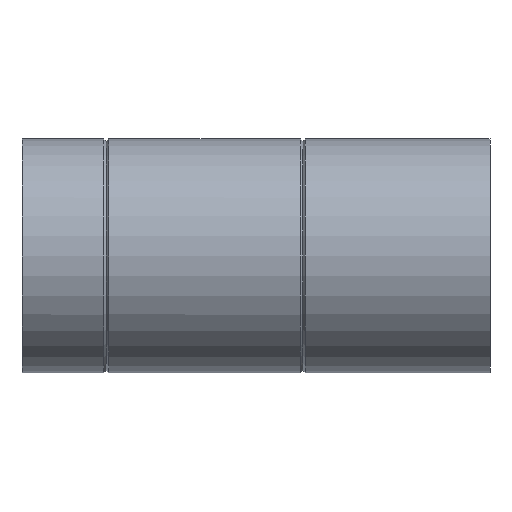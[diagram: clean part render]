
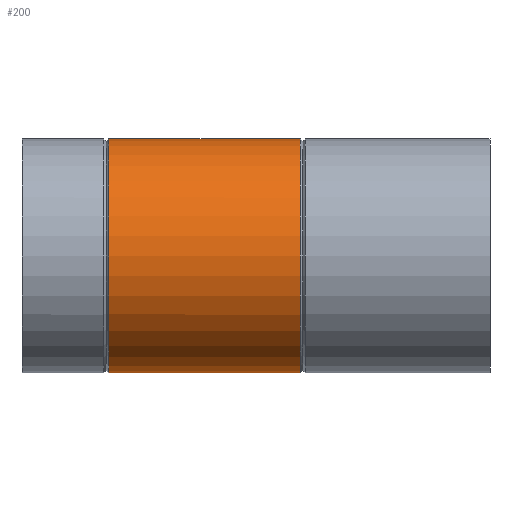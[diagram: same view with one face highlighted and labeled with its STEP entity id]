
A CAD part, left-side view. The second image highlights one B-rep face of the part: STEP entity #200.
In plain terms, the highlighted cylindrical face has radius 62.5 mm (diameter 125 mm), a full revolution.
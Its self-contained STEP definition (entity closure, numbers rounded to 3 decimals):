
#15=B_SPLINE_CURVE_WITH_KNOTS($,3,(#325,#326,#327,#328,#329,#330,#331,#332,
#333,#334,#335,#336,#337,#338,#339,#340,#341,#342,#343,#344,#345,#346,#347,
#348,#349,#350,#351,#352,#353,#354,#355,#356,#357,#358,#359,#360,#361,#362,
#363,#364,#365,#366,#367,#368,#369,#370,#371,#372,#373,#374,#375,#376,#377,
#378,#379,#380,#381,#382,#383,#384,#385,#386,#387,#388,#389,#390),
 .UNSPECIFIED.,.T.,.F.,(4,2,2,2,2,2,2,2,2,2,2,2,2,2,2,2,2,2,2,2,2,2,2,2,
2,2,2,2,2,2,2,2,4),(0.,0.736,1.472,2.209,
2.945,3.671,4.398,5.125,5.851,
6.578,7.304,8.031,8.757,9.494,
10.23,10.966,11.702,12.428,13.155,
13.881,14.607,15.333,16.059,16.785,
17.511,18.237,18.963,19.689,20.415,
21.142,21.868,22.594,23.321),
 .UNSPECIFIED.);
#17=CYLINDRICAL_SURFACE($,#222,62.5);
#26=FACE_BOUND($,#63,.T.);
#27=FACE_BOUND($,#64,.T.);
#48=FACE_OUTER_BOUND($,#62,.T.);
#62=EDGE_LOOP($,(#145));
#63=EDGE_LOOP($,(#146));
#64=EDGE_LOOP($,(#147));
#94=CIRCLE($,#221,62.5);
#95=CIRCLE($,#223,62.5);
#109=VERTEX_POINT($,#319);
#110=VERTEX_POINT($,#322);
#111=VERTEX_POINT($,#324);
#126=EDGE_CURVE($,#109,#109,#94,.T.);
#127=EDGE_CURVE($,#110,#110,#95,.T.);
#128=EDGE_CURVE($,#111,#111,#15,.T.);
#145=ORIENTED_EDGE($,*,*,#127,.T.);
#146=ORIENTED_EDGE($,*,*,#128,.T.);
#147=ORIENTED_EDGE($,*,*,#126,.T.);
#200=ADVANCED_FACE($,(#48,#26,#27),#17,.T.);
#221=AXIS2_PLACEMENT_3D($,#320,#258,#259);
#222=AXIS2_PLACEMENT_3D($,#321,#260,#261);
#223=AXIS2_PLACEMENT_3D($,#323,#262,#263);
#258=DIRECTION('center_axis',(0.,-1.,0.));
#259=DIRECTION('ref_axis',(1.,0.,0.));
#260=DIRECTION('center_axis',(0.,1.,0.));
#261=DIRECTION('ref_axis',(1.,0.,0.));
#262=DIRECTION('center_axis',(0.,1.,0.));
#263=DIRECTION('ref_axis',(1.,0.,0.));
#319=CARTESIAN_POINT('',(62.5,203.75,0.));
#320=CARTESIAN_POINT('Origin',(0.,203.75,0.));
#321=CARTESIAN_POINT('Origin',(0.,0.,0.));
#322=CARTESIAN_POINT('',(-62.5,101.25,0.));
#323=CARTESIAN_POINT('Origin',(0.,101.25,0.));
#324=CARTESIAN_POINT('',(50.,151.309,37.5));
#325=CARTESIAN_POINT('Ctrl Pts',(50.,151.309,37.5));
#326=CARTESIAN_POINT('Ctrl Pts',(50.,153.763,37.5));
#327=CARTESIAN_POINT('Ctrl Pts',(50.186,156.269,37.256));
#328=CARTESIAN_POINT('Ctrl Pts',(50.906,161.202,36.266));
#329=CARTESIAN_POINT('Ctrl Pts',(51.439,163.631,35.52));
#330=CARTESIAN_POINT('Ctrl Pts',(52.724,168.258,33.583));
#331=CARTESIAN_POINT('Ctrl Pts',(53.476,170.461,32.39));
#332=CARTESIAN_POINT('Ctrl Pts',(55.04,174.531,29.654));
#333=CARTESIAN_POINT('Ctrl Pts',(55.85,176.398,28.111));
#334=CARTESIAN_POINT('Ctrl Pts',(57.375,179.688,24.851));
#335=CARTESIAN_POINT('Ctrl Pts',(58.146,181.237,23.017));
#336=CARTESIAN_POINT('Ctrl Pts',(59.581,183.993,18.999));
#337=CARTESIAN_POINT('Ctrl Pts',(60.242,185.201,16.814));
#338=CARTESIAN_POINT('Ctrl Pts',(61.339,187.159,12.219));
#339=CARTESIAN_POINT('Ctrl Pts',(61.776,187.912,9.804));
#340=CARTESIAN_POINT('Ctrl Pts',(62.356,188.907,4.905));
#341=CARTESIAN_POINT('Ctrl Pts',(62.5,189.149,2.422));
#342=CARTESIAN_POINT('Ctrl Pts',(62.5,189.149,-2.422));
#343=CARTESIAN_POINT('Ctrl Pts',(62.356,188.907,-4.905));
#344=CARTESIAN_POINT('Ctrl Pts',(61.776,187.912,-9.804));
#345=CARTESIAN_POINT('Ctrl Pts',(61.339,187.159,-12.219));
#346=CARTESIAN_POINT('Ctrl Pts',(60.242,185.201,-16.814));
#347=CARTESIAN_POINT('Ctrl Pts',(59.581,183.993,-18.999));
#348=CARTESIAN_POINT('Ctrl Pts',(58.146,181.237,-23.017));
#349=CARTESIAN_POINT('Ctrl Pts',(57.375,179.688,-24.851));
#350=CARTESIAN_POINT('Ctrl Pts',(55.85,176.398,-28.111));
#351=CARTESIAN_POINT('Ctrl Pts',(55.04,174.531,-29.654));
#352=CARTESIAN_POINT('Ctrl Pts',(53.476,170.461,-32.39));
#353=CARTESIAN_POINT('Ctrl Pts',(52.724,168.258,-33.583));
#354=CARTESIAN_POINT('Ctrl Pts',(51.439,163.631,-35.52));
#355=CARTESIAN_POINT('Ctrl Pts',(50.906,161.202,-36.266));
#356=CARTESIAN_POINT('Ctrl Pts',(50.186,156.269,-37.256));
#357=CARTESIAN_POINT('Ctrl Pts',(50.,153.763,-37.5));
#358=CARTESIAN_POINT('Ctrl Pts',(50.,148.888,-37.5));
#359=CARTESIAN_POINT('Ctrl Pts',(50.181,146.415,-37.262));
#360=CARTESIAN_POINT('Ctrl Pts',(50.891,141.547,-36.287));
#361=CARTESIAN_POINT('Ctrl Pts',(51.417,139.153,-35.551));
#362=CARTESIAN_POINT('Ctrl Pts',(52.693,134.599,-33.631));
#363=CARTESIAN_POINT('Ctrl Pts',(53.442,132.434,-32.445));
#364=CARTESIAN_POINT('Ctrl Pts',(55.001,128.442,-29.725));
#365=CARTESIAN_POINT('Ctrl Pts',(55.81,126.616,-28.19));
#366=CARTESIAN_POINT('Ctrl Pts',(57.342,123.382,-24.929));
#367=CARTESIAN_POINT('Ctrl Pts',(58.121,121.857,-23.083));
#368=CARTESIAN_POINT('Ctrl Pts',(59.568,119.15,-19.041));
#369=CARTESIAN_POINT('Ctrl Pts',(60.234,117.969,-16.845));
#370=CARTESIAN_POINT('Ctrl Pts',(61.337,116.057,-12.232));
#371=CARTESIAN_POINT('Ctrl Pts',(61.775,115.325,-9.811));
#372=CARTESIAN_POINT('Ctrl Pts',(62.356,114.358,-4.904));
#373=CARTESIAN_POINT('Ctrl Pts',(62.5,114.124,-2.42));
#374=CARTESIAN_POINT('Ctrl Pts',(62.5,114.124,2.42));
#375=CARTESIAN_POINT('Ctrl Pts',(62.356,114.358,4.904));
#376=CARTESIAN_POINT('Ctrl Pts',(61.775,115.325,9.811));
#377=CARTESIAN_POINT('Ctrl Pts',(61.337,116.057,12.232));
#378=CARTESIAN_POINT('Ctrl Pts',(60.234,117.969,16.845));
#379=CARTESIAN_POINT('Ctrl Pts',(59.568,119.15,19.041));
#380=CARTESIAN_POINT('Ctrl Pts',(58.121,121.857,23.083));
#381=CARTESIAN_POINT('Ctrl Pts',(57.342,123.382,24.929));
#382=CARTESIAN_POINT('Ctrl Pts',(55.81,126.616,28.19));
#383=CARTESIAN_POINT('Ctrl Pts',(55.001,128.442,29.725));
#384=CARTESIAN_POINT('Ctrl Pts',(53.442,132.434,32.445));
#385=CARTESIAN_POINT('Ctrl Pts',(52.693,134.599,33.631));
#386=CARTESIAN_POINT('Ctrl Pts',(51.417,139.153,35.551));
#387=CARTESIAN_POINT('Ctrl Pts',(50.891,141.547,36.287));
#388=CARTESIAN_POINT('Ctrl Pts',(50.181,146.415,37.262));
#389=CARTESIAN_POINT('Ctrl Pts',(50.,148.888,37.5));
#390=CARTESIAN_POINT('Ctrl Pts',(50.,151.309,37.5));
